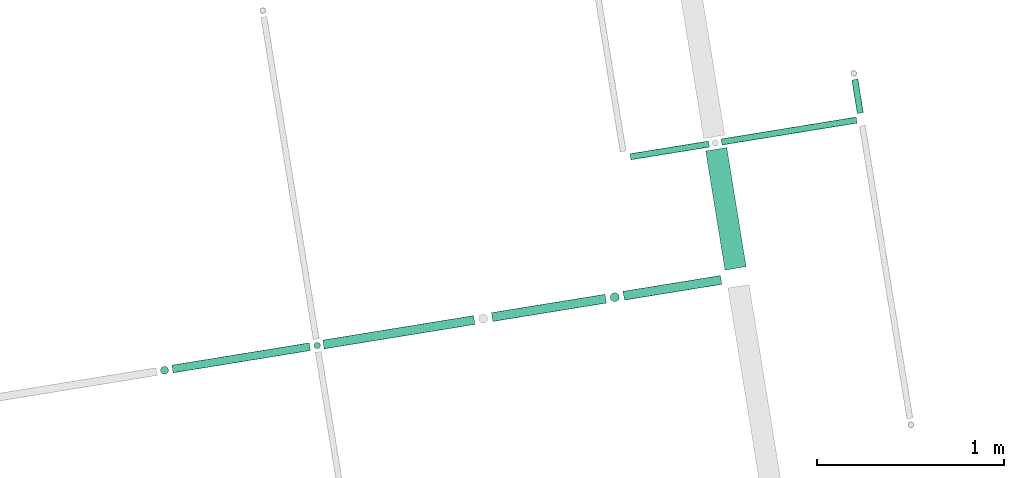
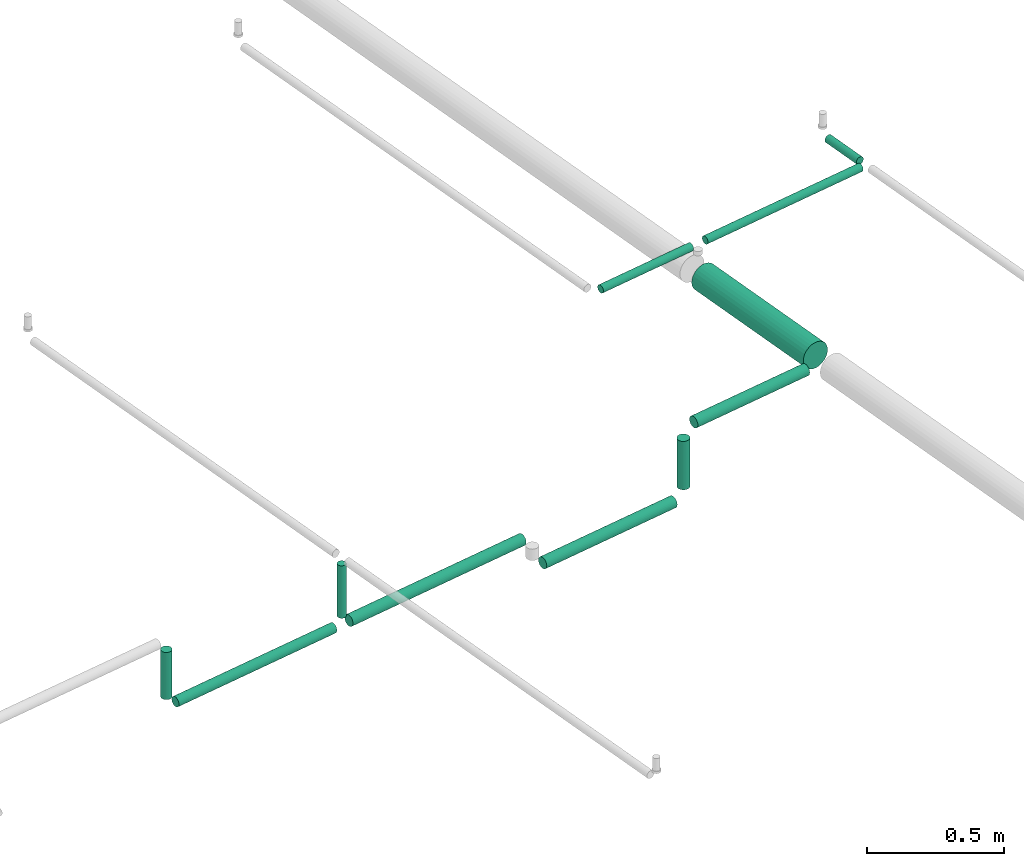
# One storey, part 5 of 11: 11 flow segments.
"""IFC2X3 building model written with IfcOpenShell, lengths in millimetres."""

from ifc_helpers import new_model, entity, si_unit, converted_unit, derived_unit, direction, frame, frame_2d, origin, origin_with_axes, origin_2d_with_axis, place, context, subcontext, project, spatial, circle, extrude, type_object, element, save


model = new_model("IFC2X3")

# Units and contexts
model_context = context("Model", 3, precision=0.01, world=origin(), true_north=direction((6.12323399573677e-17, 1.0)))
plan_context = context("Plan", 3, precision=1e-05, world=origin_with_axes())
body_context = subcontext(model_context, "Body", "Model", "MODEL_VIEW")
ifc_project = project(units=[converted_unit("PLANEANGLEUNIT", "DEGREE", entity("IfcPositiveLengthMeasure", 0.0174532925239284), si_unit("PLANEANGLEUNIT", "RADIAN"), dimensions=[0, 0, 0, 0, 0, 0, 0]), si_unit("AREAUNIT", "SQUARE_METRE"), si_unit("LENGTHUNIT", "METRE", prefix="MILLI"), si_unit("MASSUNIT", "GRAM", prefix="KILO"), si_unit("POWERUNIT", "WATT"), si_unit("PRESSUREUNIT", "PASCAL", prefix="KILO"), si_unit("FORCEUNIT", "NEWTON", prefix="KILO"), si_unit("ELECTRICVOLTAGEUNIT", "VOLT"), si_unit("ELECTRICCURRENTUNIT", "AMPERE"), si_unit("THERMODYNAMICTEMPERATUREUNIT", "DEGREE_CELSIUS"), si_unit("TIMEUNIT", "SECOND"), si_unit("VOLUMEUNIT", "CUBIC_METRE"), derived_unit("LINEARVELOCITYUNIT", [(si_unit("LENGTHUNIT", "METRE"), 1), (si_unit("TIMEUNIT", "SECOND"), -1)]), derived_unit("VOLUMETRICFLOWRATEUNIT", [(si_unit("VOLUMEUNIT", "CUBIC_METRE"), 1), (si_unit("TIMEUNIT", "SECOND"), -1)]), derived_unit("THERMALTRANSMITTANCEUNIT", [(si_unit("POWERUNIT", "WATT"), 1), (si_unit("THERMODYNAMICTEMPERATUREUNIT", "KELVIN"), -1), (si_unit("AREAUNIT", "SQUARE_METRE"), -1)]), derived_unit("SOUNDPRESSUREUNIT", [(si_unit("PRESSUREUNIT", "PASCAL"), 1)])], contexts=[model_context, plan_context])

# Site, building, storey
site_placement = place(None, frame((-0.00071070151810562, 0.00438415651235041, 0.0), z_axis=(0.0, 0.0, 1.0), x_axis=(-0.160236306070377, 0.987078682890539, 0.0)))
site = spatial("IfcSite", under=ifc_project, at=site_placement, Name="Default", CompositionType="ELEMENT")
building_placement = place(site_placement, origin_with_axes())
building = spatial("IfcBuilding", under=site, at=building_placement, CompositionType="ELEMENT")
storey_placement = place(building_placement, frame((0.0, 0.0, 50999.9999999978), z_axis=(0.0, 0.0, 1.0), x_axis=(1.0, 0.0, 0.0)))
storey = spatial("IfcBuildingStorey", under=building, at=storey_placement, Name="Nivå D", CompositionType="ELEMENT", Elevation=50999.9999999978)

# Flow segments
pipe_segment_type = type_object("IfcPipeSegmentType", Name="Pipe Types:Stålrør normaltykke", PredefinedType="NOTDEFINED")
flow_segment_1_placement = place(storey_placement, origin_with_axes())
element("IfcFlowSegment", 1, at=flow_segment_1_placement, inside=storey, type_object=pipe_segment_type, Name="Pipe Types:Stålrør normaltykke", ObjectType="Pipe Types:Stålrør normaltykke", context=body_context, shape_type="SweptSolid", body=[
    extrude(circle(Radius=24.1499996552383, at=origin_2d_with_axis()), frame((776192.619644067, -602856.80820948, 3300.0), z_axis=(0.0, 1.0, 0.0), x_axis=(1.0, 0.0, 0.0)), (0.0, 0.0, 1.0), 526.948349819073),
])
flow_segment_2_placement = place(storey_placement, origin_with_axes())
element("IfcFlowSegment", 2, at=flow_segment_2_placement, inside=storey, type_object=pipe_segment_type, Name="Pipe Types:Stålrør normaltykke", ObjectType="Pipe Types:Stålrør normaltykke", context=body_context, shape_type="SweptSolid", body=[
    extrude(circle(Radius=24.1499996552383, at=frame_2d((0.0, 6.93034962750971e-11), x_axis=(1.0, 0.0))), frame((776192.619644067, -602281.459859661, 3036.26263744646)), (0.0, 0.0, 1.0), 215.337362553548),
])
flow_segment_3_placement = place(storey_placement, origin_with_axes())
element("IfcFlowSegment", 3, at=flow_segment_3_placement, inside=storey, type_object=pipe_segment_type, Name="Pipe Types:Stålrør normaltykke", ObjectType="Pipe Types:Stålrør normaltykke", context=body_context, shape_type="SweptSolid", body=[
    extrude(circle(Radius=24.1499996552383, at=origin_2d_with_axis()), frame((776192.619644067, -602233.059859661, 2987.86263744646), z_axis=(0.0, 1.0, 0.0), x_axis=(1.0, 0.0, 0.0)), (0.0, 0.0, 1.0), 614.407879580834),
])
flow_segment_4_placement = place(storey_placement, origin_with_axes())
element("IfcFlowSegment", 4, at=flow_segment_4_placement, inside=storey, type_object=pipe_segment_type, Name="Pipe Types:Stålrør normaltykke", ObjectType="Pipe Types:Stålrør normaltykke", context=body_context, shape_type="SweptSolid", body=[
    extrude(circle(Radius=21.2000007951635, at=origin_2d_with_axis()), frame((776192.619644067, -600633.105078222, 3134.97205096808), z_axis=(0.0, 1.0, 0.0), x_axis=(1.0, 0.0, 0.0)), (0.0, 0.0, 1.0), 743.183210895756),
])
flow_segment_5_placement = place(storey_placement, origin_with_axes())
element("IfcFlowSegment", 5, at=flow_segment_5_placement, inside=storey, type_object=pipe_segment_type, Name="Pipe Types:Stålrør normaltykke", ObjectType="Pipe Types:Stålrør normaltykke", context=body_context, shape_type="SweptSolid", body=[
    extrude(circle(Radius=16.8500004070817, at=origin_2d_with_axis()), frame((776192.619644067, -600672.905078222, 3171.27205096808), z_axis=(0.0, 0.0, 1.0), x_axis=(-1.0, 0.0, 0.0)), (0.0, 0.0, 1.0), 233.37794903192),
])
flow_segment_6_placement = place(storey_placement, origin_with_axes())
element("IfcFlowSegment", 6, at=flow_segment_6_placement, inside=storey, type_object=pipe_segment_type, Name="Pipe Types:Stålrør normaltykke", ObjectType="Pipe Types:Stålrør normaltykke", context=body_context, shape_type="SweptSolid", body=[
    extrude(circle(Radius=24.1499996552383, at=origin_2d_with_axis()), frame((776192.619644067, -601521.85198008, 3134.97205096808), z_axis=(0.0, 1.0, 0.0), x_axis=(1.0, 0.0, 0.0)), (0.0, 0.0, 1.0), 815.146901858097),
])
flow_segment_7_placement = place(storey_placement, origin_with_axes())
element("IfcFlowSegment", 7, at=flow_segment_7_placement, inside=storey, type_object=pipe_segment_type, Name="Pipe Types:Stålrør normaltykke", ObjectType="Pipe Types:Stålrør normaltykke", context=body_context, shape_type="SweptSolid", body=[
    extrude(circle(Radius=21.2000007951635, at=origin_2d_with_axis()), frame((776192.619644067, -599847.521867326, 3177.37205096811), z_axis=(0.0, 0.0, 1.0), x_axis=(-1.0, 0.0, 0.0)), (0.0, 0.0, 1.0), 210.227949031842),
])
flow_segment_8_placement = place(storey_placement, origin_with_axes())
element("IfcFlowSegment", 8, at=flow_segment_8_placement, inside=storey, type_object=pipe_segment_type, Name="Pipe Types:Stålrør normaltykke", ObjectType="Pipe Types:Stålrør normaltykke", context=body_context, shape_type="SweptSolid", body=[
    extrude(circle(Radius=57.1500016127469, at=origin_2d_with_axis()), frame((776241.019644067, -602942.60820948, 3300.0), z_axis=(1.0, 0.0, 0.0), x_axis=(0.0, -1.0, 0.0)), (0.0, 0.0, 1.0), 644.019540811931),
])
flow_segment_9_placement = place(storey_placement, origin_with_axes())
element("IfcFlowSegment", 9, at=flow_segment_9_placement, inside=storey, type_object=pipe_segment_type, Name="Pipe Types:Stålrør normaltykke", ObjectType="Pipe Types:Stålrør normaltykke", context=body_context, shape_type="SweptSolid", body=[
    extrude(circle(Radius=16.8500004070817, at=origin_2d_with_axis()), frame((776918.839184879, -603707.130498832, 3430.0), z_axis=(0.0, 1.0, 0.0), x_axis=(1.0, 0.0, 0.0)), (0.0, 0.0, 1.0), 730.722289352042),
])
flow_segment_10_placement = place(storey_placement, origin_with_axes())
element("IfcFlowSegment", 10, at=flow_segment_10_placement, inside=storey, type_object=pipe_segment_type, Name="Pipe Types:Stålrør normaltykke", ObjectType="Pipe Types:Stålrør normaltykke", context=body_context, shape_type="SweptSolid", body=[
    extrude(circle(Radius=16.8500004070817, at=frame_2d((0.0, 8.66293703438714e-12), x_axis=(1.0, 0.0))), frame((776952.639184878, -603732.480498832, 3430.0), z_axis=(1.0, 0.0, 0.0), x_axis=(0.0, 1.0, 0.0)), (0.0, 0.0, 1.0), 181.180463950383),
])
flow_segment_11_placement = place(storey_placement, origin_with_axes())
element("IfcFlowSegment", 11, at=flow_segment_11_placement, inside=storey, type_object=pipe_segment_type, Name="Pipe Types:Stålrør normaltykke", ObjectType="Pipe Types:Stålrør normaltykke", context=body_context, shape_type="SweptSolid", body=[
    extrude(circle(Radius=16.8500004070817, at=origin_2d_with_axis()), frame((776918.839184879, -602908.80820948, 3430.0), z_axis=(0.0, 1.0, 0.0), x_axis=(1.0, 0.0, 0.0)), (0.0, 0.0, 1.0), 424.756229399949),
])

save(model, "model.ifc")
